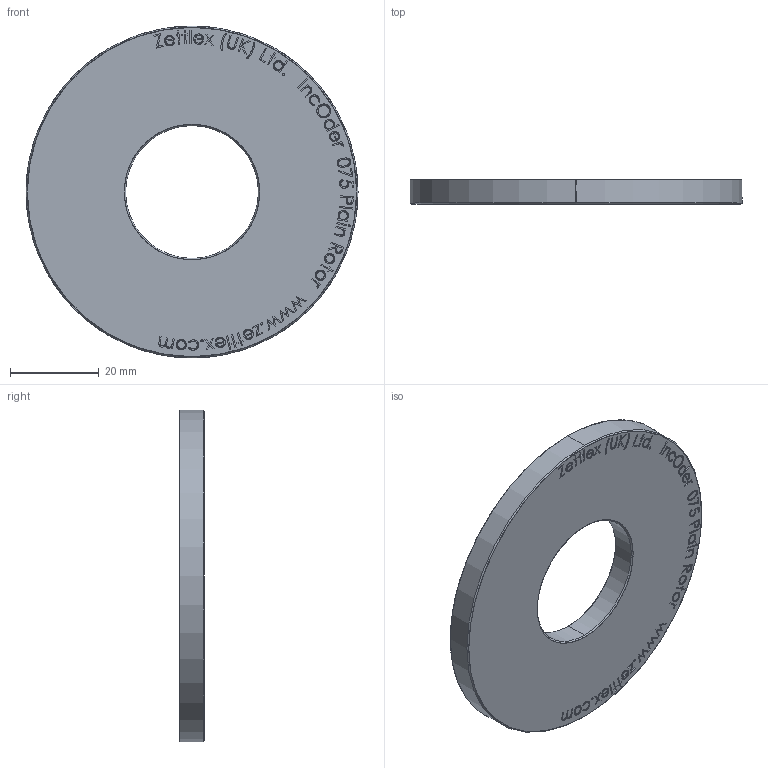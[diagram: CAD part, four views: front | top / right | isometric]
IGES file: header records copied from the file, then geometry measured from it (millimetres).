
Start section: SolidWorks IGES file using analytic representation for surfaces
Global section: file name: C:\Zettlex Data\Mechanical Drawings\1011\075 Plain Rotor Rev 1-4.IGS; native system: SolidWorks 2015; preprocessor: SolidWorks 2015; author: Nigel; date: 150902.105007; units: millimetre
Bounding box: 75 x 5.6 x 75 mm (x, y, z)
Surface area: 9336 mm2 (no closed solid volume)
Topology: 0 solids, 0 shells, 604 faces, 7051 edges, 7051 vertices
Faces by surface type: bspline 594, revolution 10
